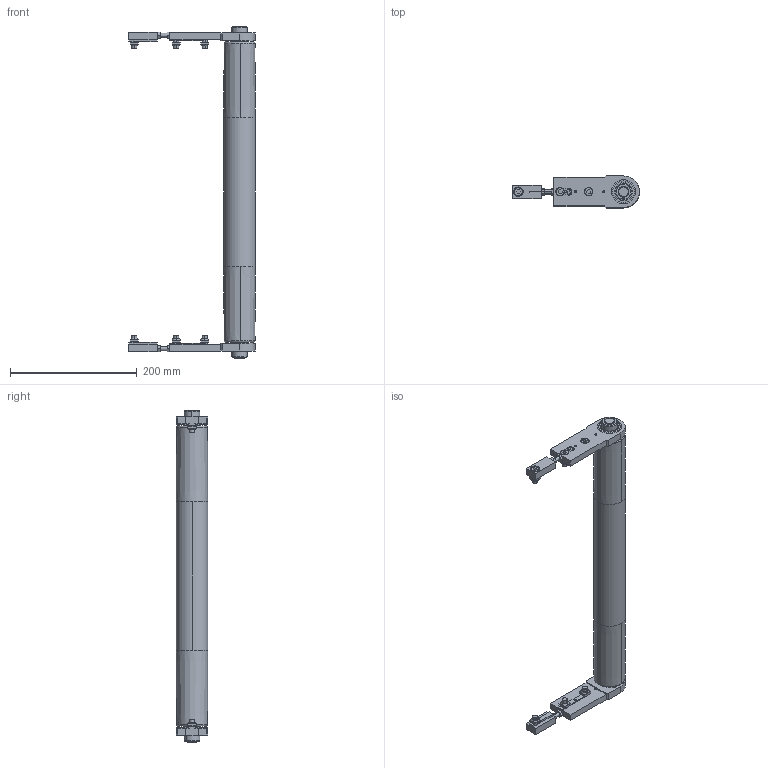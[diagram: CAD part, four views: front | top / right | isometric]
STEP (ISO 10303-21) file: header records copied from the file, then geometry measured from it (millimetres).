
FILE_DESCRIPTION (( 'STEP AP203' ), '1' );
FILE_NAME ('084.050.KIC.450.STEP', '2019-07-29T10:26:57', ( '' ), ( '' ), 'SwSTEP 2.0', 'SolidWorks 2018', '' );
FILE_SCHEMA (( 'CONFIG_CONTROL_DESIGN' ));
Length unit declared in the file: millimetre
Products named in the file (9): 084.810.001; 084.301.000 VITI ALUSIC_084.301.003; 084.815.129_Default<A macchina>; 084.802.008; 084.050.KIC.450; 084.802.017_084.802.017; 084.302.000 DADI ALUSIC 13x13_084.302.004; 084.811.004; 084.807.004_084.807.004
Assembly tree (23 placements, depth 2):
  084.050.KIC.450
    084.807.004_084.807.004  x2
    084.802.017_084.802.017  x2
    084.811.004  x2
    084.815.129_Default<A macchina>
    084.810.001  x2
    084.802.008  x2
    084.301.000 VITI ALUSIC_084.301.003  x6
    084.302.000 DADI ALUSIC 13x13_084.302.004  x6
Bounding box: 200 x 50 x 524 mm (x, y, z)
Volume: 519692 mm3; surface area: 323089.2 mm2
Topology: 29 solids, 31 shells, 758 faces, 1890 edges, 1228 vertices
Faces by surface type: plane 350, cylinder 218, torus 76, cone 60, bspline 46, sphere 8
Entity records: 12534 total; most frequent: CARTESIAN_POINT 2408, DIRECTION 1913, ORIENTED_EDGE 1782, EDGE_CURVE 891, AXIS2_PLACEMENT_3D 736, VERTEX_POINT 583, LINE 441, VECTOR 441
